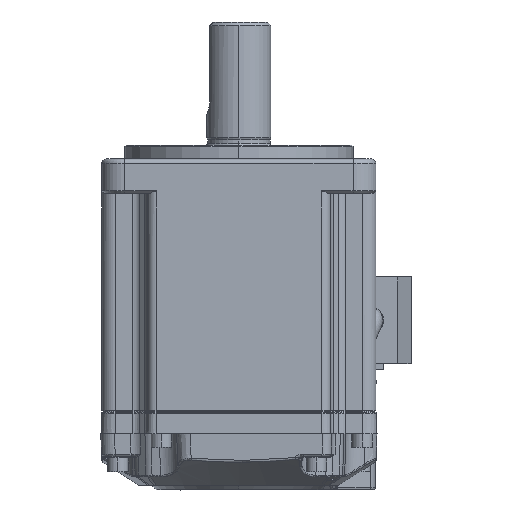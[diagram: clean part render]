
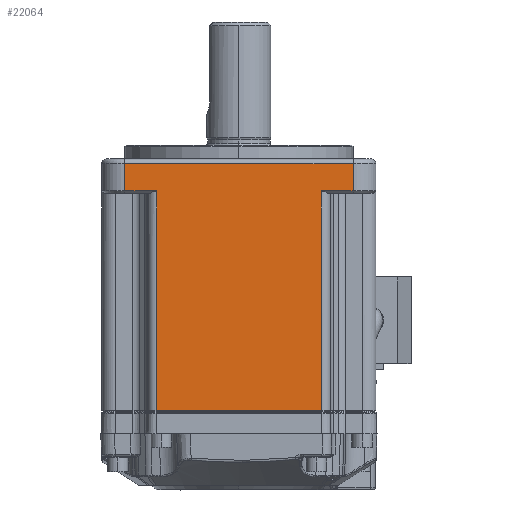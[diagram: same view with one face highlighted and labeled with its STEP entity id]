
A CAD part, front view. The second image highlights one B-rep face of the part: STEP entity #22064.
In plain terms, the highlighted planar face has unit normal (0, -1, 0).
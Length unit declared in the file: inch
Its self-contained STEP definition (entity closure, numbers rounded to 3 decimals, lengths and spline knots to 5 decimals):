
#536=DIRECTION('',(1.,0.,0.));
#537=VECTOR('',#536,1.42005);
#538=CARTESIAN_POINT('',(-0.71002,-1.1811,
-0.00157));
#539=LINE('',#538,#537);
#978=DIRECTION('',(0.,0.,-1.));
#979=VECTOR('',#978,1.89567);
#980=CARTESIAN_POINT('',(-0.71002,-1.1811,
1.89409));
#981=LINE('',#980,#979);
#988=DIRECTION('',(-1.,0.,0.));
#989=VECTOR('',#988,0.27423);
#990=CARTESIAN_POINT('',(0.98425,-1.1811,1.89409));
#991=LINE('',#990,#989);
#992=DIRECTION('',(-1.,0.,0.));
#993=VECTOR('',#992,0.27423);
#994=CARTESIAN_POINT('',(-0.71002,-1.1811,
1.89409));
#995=LINE('',#994,#993);
#996=DIRECTION('',(0.,0.,-1.));
#997=VECTOR('',#996,0.23622);
#998=CARTESIAN_POINT('',(-0.98425,-1.1811,
2.13031));
#999=LINE('',#998,#997);
#1000=DIRECTION('',(1.,0.,0.));
#1001=VECTOR('',#1000,1.9685);
#1002=CARTESIAN_POINT('',(-0.98425,-1.1811,
2.13031));
#1003=LINE('',#1002,#1001);
#1004=DIRECTION('',(0.,0.,-1.));
#1005=VECTOR('',#1004,0.23622);
#1006=CARTESIAN_POINT('',(0.98425,-1.1811,
2.13031));
#1007=LINE('',#1006,#1005);
#1116=DIRECTION('',(0.,0.,1.));
#1117=VECTOR('',#1116,1.89567);
#1118=CARTESIAN_POINT('',(0.71002,-1.1811,
-0.00157));
#1119=LINE('',#1118,#1117);
#17798=CARTESIAN_POINT('',(0.71002,-1.1811,
-0.00157));
#17799=VERTEX_POINT('',#17798);
#17800=CARTESIAN_POINT('',(-0.71002,-1.1811,
-0.00157));
#17802=VERTEX_POINT('',#17800);
#17826=CARTESIAN_POINT('',(-0.98425,-1.1811,
2.13031));
#17827=VERTEX_POINT('',#17826);
#17830=CARTESIAN_POINT('',(0.98425,-1.1811,
2.13031));
#17831=VERTEX_POINT('',#17830);
#17860=CARTESIAN_POINT('',(0.98425,-1.1811,
1.89409));
#17861=CARTESIAN_POINT('',(0.71002,-1.1811,
1.89409));
#17862=VERTEX_POINT('',#17860);
#17863=VERTEX_POINT('',#17861);
#17902=CARTESIAN_POINT('',(-0.98425,-1.1811,
1.89409));
#17903=VERTEX_POINT('',#17902);
#17906=CARTESIAN_POINT('',(-0.71002,-1.1811,
1.89409));
#17907=VERTEX_POINT('',#17906);
#22046=CARTESIAN_POINT('',(-1.1811,-1.1811,
2.16969));
#22047=DIRECTION('',(0.,-1.,0.));
#22048=DIRECTION('',(1.,0.,0.));
#22049=AXIS2_PLACEMENT_3D('',#22046,#22047,#22048);
#22050=PLANE('',#22049);
#22052=ORIENTED_EDGE('',*,*,#22051,.T.);
#22054=ORIENTED_EDGE('',*,*,#22053,.F.);
#22055=ORIENTED_EDGE('',*,*,#21635,.F.);
#22056=ORIENTED_EDGE('',*,*,#22026,.F.);
#22057=ORIENTED_EDGE('',*,*,#22040,.T.);
#22058=ORIENTED_EDGE('',*,*,#21873,.F.);
#22059=ORIENTED_EDGE('',*,*,#21322,.T.);
#22061=ORIENTED_EDGE('',*,*,#22060,.T.);
#22062=EDGE_LOOP('',(#22052,#22054,#22055,#22056,#22057,#22058,#22059,#22061));
#22063=FACE_OUTER_BOUND('',#22062,.F.);
#22064=ADVANCED_FACE('',(#22063),#22050,.T.);
#21322=EDGE_CURVE('',#17827,#17831,#1003,.T.);
#21635=EDGE_CURVE('',#17802,#17799,#539,.T.);
#21873=EDGE_CURVE('',#17827,#17903,#999,.T.);
#22026=EDGE_CURVE('',#17907,#17802,#981,.T.);
#22040=EDGE_CURVE('',#17907,#17903,#995,.T.);
#22051=EDGE_CURVE('',#17862,#17863,#991,.T.);
#22053=EDGE_CURVE('',#17799,#17863,#1119,.T.);
#22060=EDGE_CURVE('',#17831,#17862,#1007,.T.);
